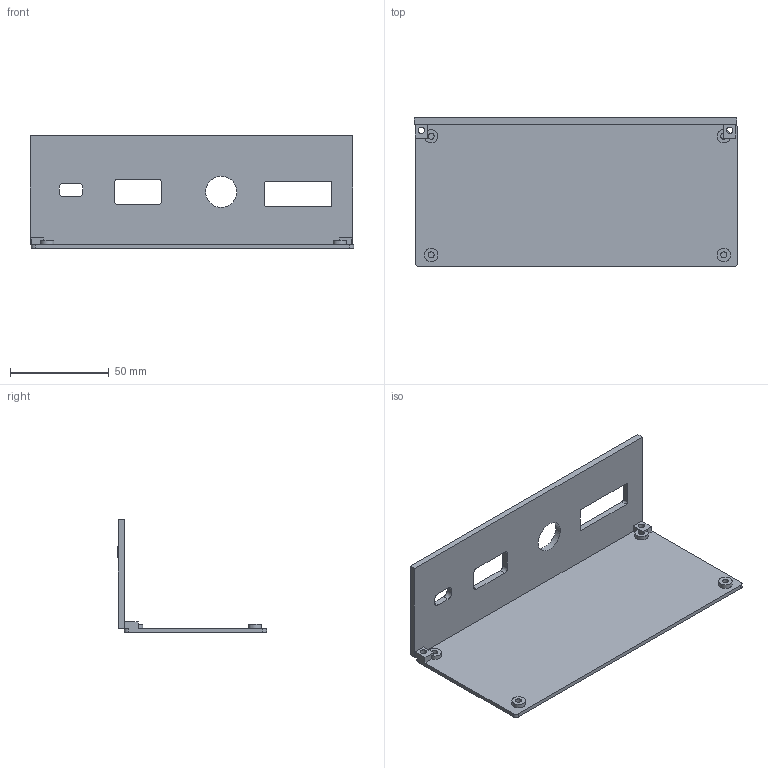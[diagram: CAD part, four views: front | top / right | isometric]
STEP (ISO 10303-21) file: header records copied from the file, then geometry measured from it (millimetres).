
FILE_DESCRIPTION(('Open CASCADE Model'),'2;1');
FILE_NAME('Open CASCADE Shape Model','2026-11-07T14:08:14',('Author'),( 'Open CASCADE'),'Open CASCADE STEP processor 7.9','Open CASCADE 7.9' ,'Unknown');
FILE_SCHEMA(('AUTOMOTIVE_DESIGN { 1 0 10303 214 1 1 1 1 }'));
Length unit declared in the file: millimetre
Products named in the file (1): Open CASCADE STEP translator 7.9 10
Bounding box: 163.5 x 75.55 x 57.1 mm (x, y, z)
Volume: 49348.1 mm3; surface area: 42941.6 mm2
Topology: 1 solids, 1 shells, 429 faces, 1191 edges, 793 vertices
Faces by surface type: extrusion 228, plane 173, cylinder 28
Full cylindrical faces by diameter (mm): 3 x3, 3.3 x2, 6.8 x2, 15.8 x1
Entity records: 29434 total; most frequent: CARTESIAN_POINT 7279, DIRECTION 3249, VECTOR 2688, LINE 2460, ORIENTED_EDGE 2384, PCURVE 2382, DEFINITIONAL_REPRESENTATION 2382, B_SPLINE_CURVE_WITH_KNOTS 1223
